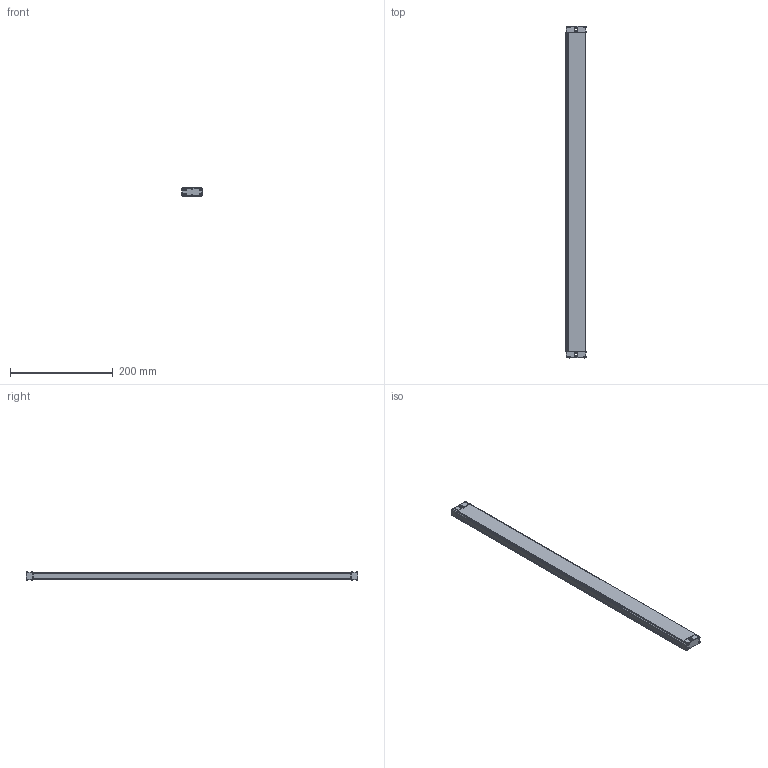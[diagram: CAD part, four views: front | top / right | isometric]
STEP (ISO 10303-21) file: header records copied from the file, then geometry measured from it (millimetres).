
FILE_DESCRIPTION((''),'2;1');
FILE_NAME('EB15--3610_ASM','2021-07-22T11:18:35',('18720616900'),(''),'CREO PARAMETRIC BY PTC INC, 2019010','CREO PARAMETRIC BY PTC INC, 2019010','');
FILE_SCHEMA(('CONFIG_CONTROL_DESIGN'));
Length unit declared in the file: millimetre
Products named in the file (6): EB15-00; EB15-000; EB15-0003; EB15-0004; ST-3-12; EB15--3610_ASM
Assembly tree (12 placements, depth 2):
  EB15--3610_ASM
    EB15-00
    EB15-000
    EB15-0003
    EB15-0004
    ST-3-12  x8
Bounding box: 39.15 x 645 x 15.8 mm (x, y, z)
Volume: 387376.5 mm3; surface area: 96071.9 mm2
Topology: 12 solids, 12 shells, 827 faces, 2188 edges, 1368 vertices
Faces by surface type: plane 242, bspline 188, cone 176, cylinder 165, torus 40, sphere 16
Entity records: 16044 total; most frequent: CARTESIAN_POINT 7660, ORIENTED_EDGE 1804, DIRECTION 1603, EDGE_CURVE 902, AXIS2_PLACEMENT_3D 577, VERTEX_POINT 563, VECTOR 449, LINE 449
